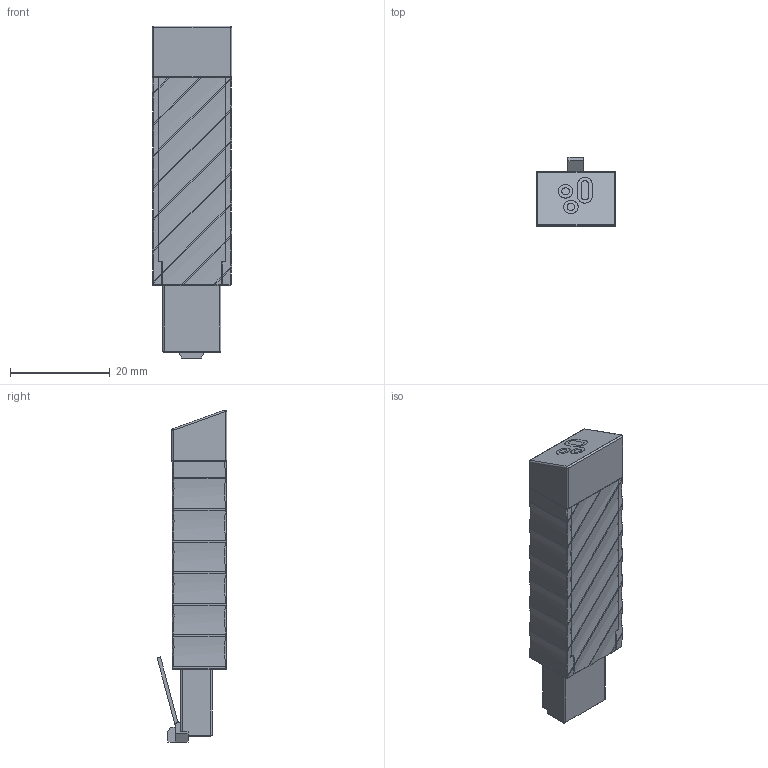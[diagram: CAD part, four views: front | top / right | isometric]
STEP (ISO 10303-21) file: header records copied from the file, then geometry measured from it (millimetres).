
FILE_DESCRIPTION (( 'STEP AP203' ), '1' );
FILE_NAME ('3D_TWD1.STEP', '2018-06-12T10:31:50', ( '' ), ( '' ), 'SwSTEP 2.0', 'SolidWorks 2015', '' );
FILE_SCHEMA (( 'CONFIG_CONTROL_DESIGN' ));
Length unit declared in the file: millimetre
Products named in the file (1): 3D_TWD1
Bounding box: 16 x 14.04 x 66.67 mm (x, y, z)
Volume: 9484.1 mm3; surface area: 6431.4 mm2
Topology: 4 solids, 5 shells, 414 faces, 1013 edges, 606 vertices
Faces by surface type: bspline 160, cylinder 140, plane 91, sphere 17, torus 6
Entity records: 13351 total; most frequent: CARTESIAN_POINT 5167, ORIENTED_EDGE 1986, DIRECTION 1292, EDGE_CURVE 993, VERTEX_POINT 598, AXIS2_PLACEMENT_3D 465, EDGE_LOOP 419, ADVANCED_FACE 412
